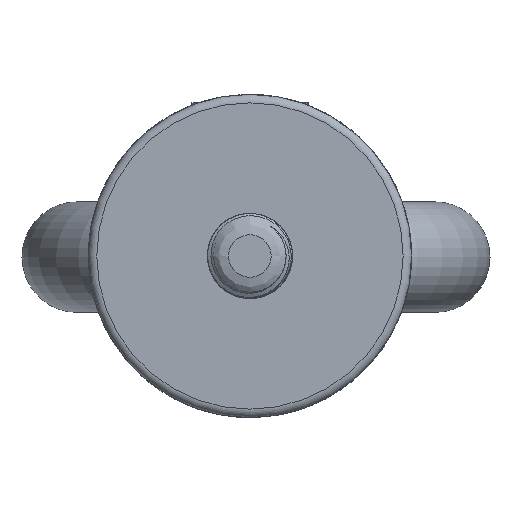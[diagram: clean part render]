
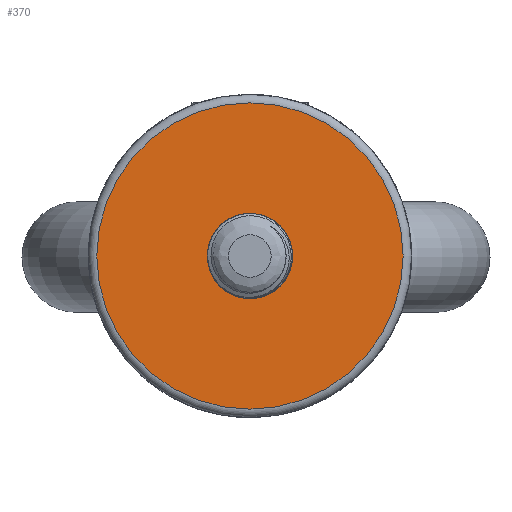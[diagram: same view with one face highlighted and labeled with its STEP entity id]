
A CAD part, front view. The second image highlights one B-rep face of the part: STEP entity #370.
In plain terms, the highlighted planar face has unit normal (0, -1, 0).
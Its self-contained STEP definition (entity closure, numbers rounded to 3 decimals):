
#274=FACE_BOUND('',#1108,.T.);
#275=FACE_BOUND('',#1109,.T.);
#370=ADVANCED_FACE('',(#274,#275),#614,.F.);
#614=PLANE('',#5160);
#1108=EDGE_LOOP('',(#2233));
#1109=EDGE_LOOP('',(#2234));
#1427=CIRCLE('',#5157,18.);
#1428=CIRCLE('',#5159,4.9);
#2233=ORIENTED_EDGE('',*,*,#3978,.F.);
#2234=ORIENTED_EDGE('',*,*,#3977,.T.);
#3461=VERTEX_POINT('',#8759);
#3462=VERTEX_POINT('',#8762);
#3977=EDGE_CURVE('',#3461,#3461,#1427,.T.);
#3978=EDGE_CURVE('',#3462,#3462,#1428,.T.);
#5157=AXIS2_PLACEMENT_3D('',#8758,#5699,#5700);
#5159=AXIS2_PLACEMENT_3D('',#8761,#5703,#5704);
#5160=AXIS2_PLACEMENT_3D('',#8763,#5705,#5706);
#5699=DIRECTION('',(0.,-1.,0.));
#5700=DIRECTION('',(1.,0.,0.));
#5703=DIRECTION('',(0.,-1.,0.));
#5704=DIRECTION('',(1.,0.,0.));
#5705=DIRECTION('',(0.,1.,0.));
#5706=DIRECTION('',(-1.,0.,0.));
#8758=CARTESIAN_POINT('',(0.,5.4,0.));
#8759=CARTESIAN_POINT('',(18.,5.4,0.));
#8761=CARTESIAN_POINT('',(0.,5.4,0.));
#8762=CARTESIAN_POINT('',(4.9,5.4,0.));
#8763=CARTESIAN_POINT('',(18.,5.4,0.));
